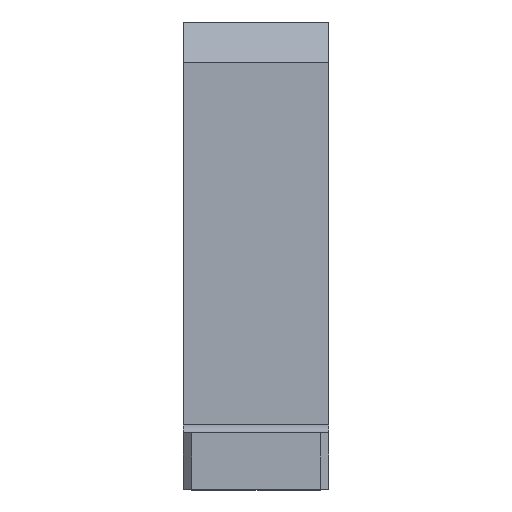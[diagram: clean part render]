
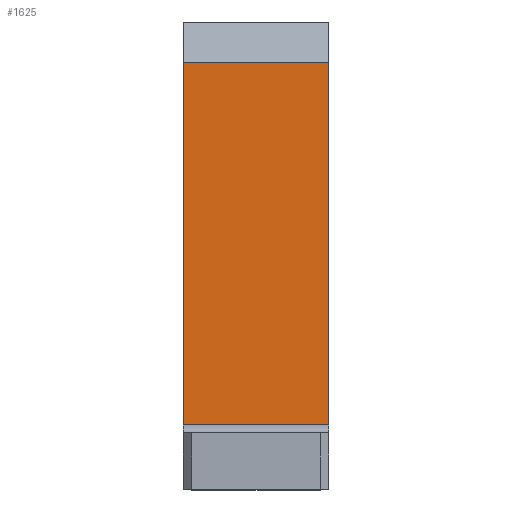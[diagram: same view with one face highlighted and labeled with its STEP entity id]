
A CAD part, top view. The second image highlights one B-rep face of the part: STEP entity #1625.
In plain terms, the highlighted planar face has unit normal (0, 0, 1).
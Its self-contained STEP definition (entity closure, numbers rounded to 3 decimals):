
#15 = EDGE_CURVE ( 'NONE', #1879, #1605, #2489, .T. ) ;
#24 = CARTESIAN_POINT ( 'NONE',  ( -18., 58., 34. ) ) ;
#29 = CARTESIAN_POINT ( 'NONE',  ( 18., 48., 34. ) ) ;
#231 = DIRECTION ( 'NONE',  ( 1., 0., 0. ) ) ;
#273 = LINE ( 'NONE', #992, #1716 ) ;
#322 = EDGE_CURVE ( 'NONE', #909, #1879, #416, .T. ) ;
#327 = CARTESIAN_POINT ( 'NONE',  ( -18., -42., 34. ) ) ;
#350 = VERTEX_POINT ( 'NONE', #29 ) ;
#416 = LINE ( 'NONE', #24, #1095 ) ;
#549 = CARTESIAN_POINT ( 'NONE',  ( 18., 58., 34. ) ) ;
#695 = FACE_OUTER_BOUND ( 'NONE', #1522, .T. ) ;
#736 = ORIENTED_EDGE ( 'NONE', *, *, #2167, .T. ) ;
#810 = DIRECTION ( 'NONE',  ( -1., 0., 0. ) ) ;
#849 = DIRECTION ( 'NONE',  ( 0., -1., 0. ) ) ;
#909 = VERTEX_POINT ( 'NONE', #1997 ) ;
#992 = CARTESIAN_POINT ( 'NONE',  ( 18., 48., 34. ) ) ;
#1030 = CARTESIAN_POINT ( 'NONE',  ( 18., 58., 34. ) ) ;
#1052 = VECTOR ( 'NONE', #231, 1000. ) ;
#1095 = VECTOR ( 'NONE', #1350, 1000. ) ;
#1157 = ORIENTED_EDGE ( 'NONE', *, *, #1230, .F. ) ;
#1230 = EDGE_CURVE ( 'NONE', #350, #1605, #1770, .T. ) ;
#1350 = DIRECTION ( 'NONE',  ( 0., -1., 0. ) ) ;
#1522 = EDGE_LOOP ( 'NONE', ( #1157, #736, #2172, #1958 ) ) ;
#1605 = VERTEX_POINT ( 'NONE', #2325 ) ;
#1625 = ADVANCED_FACE ( 'NONE', ( #695 ), #2075, .F. ) ;
#1689 = DIRECTION ( 'NONE',  ( 0., 1., 0. ) ) ;
#1716 = VECTOR ( 'NONE', #810, 1000. ) ;
#1720 = VECTOR ( 'NONE', #849, 1000. ) ;
#1770 = LINE ( 'NONE', #1030, #1720 ) ;
#1879 = VERTEX_POINT ( 'NONE', #327 ) ;
#1958 = ORIENTED_EDGE ( 'NONE', *, *, #15, .T. ) ;
#1997 = CARTESIAN_POINT ( 'NONE',  ( -18., 48., 34. ) ) ;
#2075 = PLANE ( 'NONE',  #2134 ) ;
#2103 = CARTESIAN_POINT ( 'NONE',  ( 18., -42., 34. ) ) ;
#2125 = DIRECTION ( 'NONE',  ( 0., 0., -1. ) ) ;
#2134 = AXIS2_PLACEMENT_3D ( 'NONE', #549, #2125, #1689 ) ;
#2167 = EDGE_CURVE ( 'NONE', #350, #909, #273, .T. ) ;
#2172 = ORIENTED_EDGE ( 'NONE', *, *, #322, .T. ) ;
#2325 = CARTESIAN_POINT ( 'NONE',  ( 18., -42., 34. ) ) ;
#2489 = LINE ( 'NONE', #2103, #1052 ) ;
